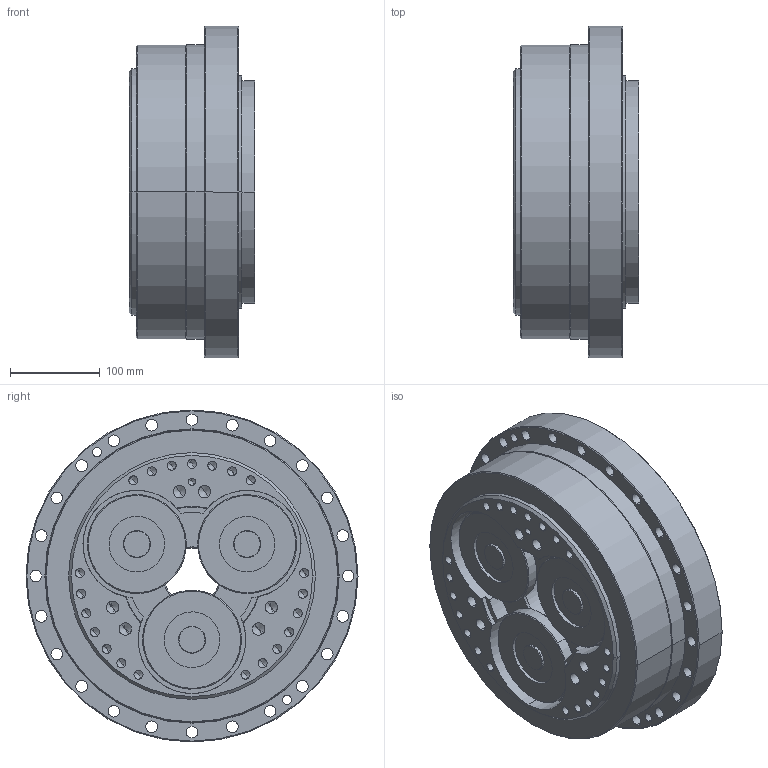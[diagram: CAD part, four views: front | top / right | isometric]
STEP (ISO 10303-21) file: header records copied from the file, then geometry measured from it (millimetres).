
FILE_DESCRIPTION (( 'STEP AP203' ), '1' );
FILE_NAME ('370BX-op-00.STEP', '2022-11-11T04:27:02', ( '' ), ( '' ), 'SwSTEP 2.0', 'SolidWorks 2020', '' );
FILE_SCHEMA (( 'CONFIG_CONTROL_DESIGN' ));
Length unit declared in the file: millimetre
Products named in the file (7): AS 1420  - Metric M16 x 35.stp; 370BX-op-00; RV-450E-Body.stp; RV-450E-Gear.stp; 錨璃297^370BX-op-00; RV-450E-Ball.stp; 370BX-op-00.stp
Assembly tree (57 placements, depth 3):
  370BX-op-00
    370BX-op-00.stp
      RV-450E-Body.stp
      RV-450E-Gear.stp  x3
      AS 1420  - Metric M16 x 35.stp  x6
      RV-450E-Ball.stp  x45
    錨璃297^370BX-op-00
Bounding box: 140.2 x 370 x 370 mm (x, y, z)
Volume: 10492060.8 mm3; surface area: 666214.6 mm2
Topology: 121 solids, 121 shells, 2281 faces, 6246 edges, 4105 vertices
Faces by surface type: plane 1178, bspline 572, cylinder 254, cone 169, sphere 90, torus 18
Entity records: 90167 total; most frequent: CARTESIAN_POINT 39307, ORIENTED_EDGE 11106, DIRECTION 8126, EDGE_CURVE 5553, LINE 3790, VECTOR 3790, VERTEX_POINT 3701, EDGE_LOOP 2224
